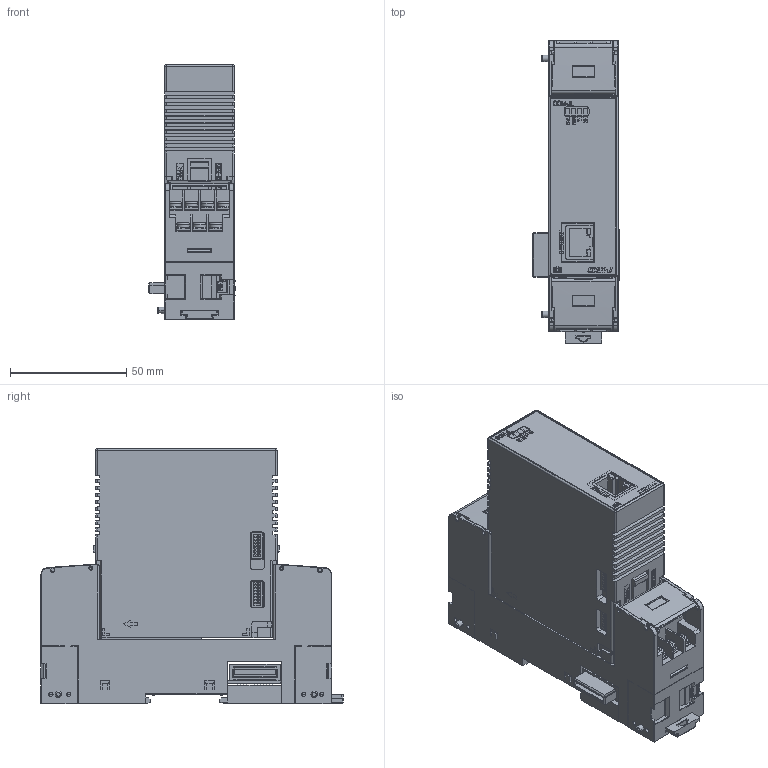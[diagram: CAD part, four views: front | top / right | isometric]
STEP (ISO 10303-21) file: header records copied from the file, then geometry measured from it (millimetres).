
FILE_DESCRIPTION (( 'STEP AP203' ), '1' );
FILE_NAME ('COM-JL_WEB.STEP', '2020-05-07T01:01:50', ( '' ), ( '' ), 'SwSTEP 2.0', 'SolidWorks 2018', '' );
FILE_SCHEMA (( 'CONFIG_CONTROL_DESIGN' ));
Length unit declared in the file: millimetre
Products named in the file (5): COM-JL（基本設計）_WEB; SRX取付具_WEB; KSRX-56(1)_WEB; COM-JL_WEB; KSRX-510(1)_WEB
Assembly tree (6 placements, depth 2):
  COM-JL_WEB
    COM-JL（基本設計）_WEB
    KSRX-510(1)_WEB  x2
    SRX取付具_WEB
    KSRX-56(1)_WEB  x2
Bounding box: 37.22 x 129.9 x 109.75 mm (x, y, z)
Volume: 289677.8 mm3; surface area: 78196.2 mm2
Topology: 8 solids, 12 shells, 5415 faces, 14833 edges, 9580 vertices
Faces by surface type: plane 3718, cylinder 804, bspline 711, sphere 80, torus 68, cone 34
Entity records: 178344 total; most frequent: CARTESIAN_POINT 52842, ORIENTED_EDGE 27622, DIRECTION 22898, EDGE_CURVE 13811, VECTOR 10520, LINE 10520, VERTEX_POINT 8954, AXIS2_PLACEMENT_3D 6189
